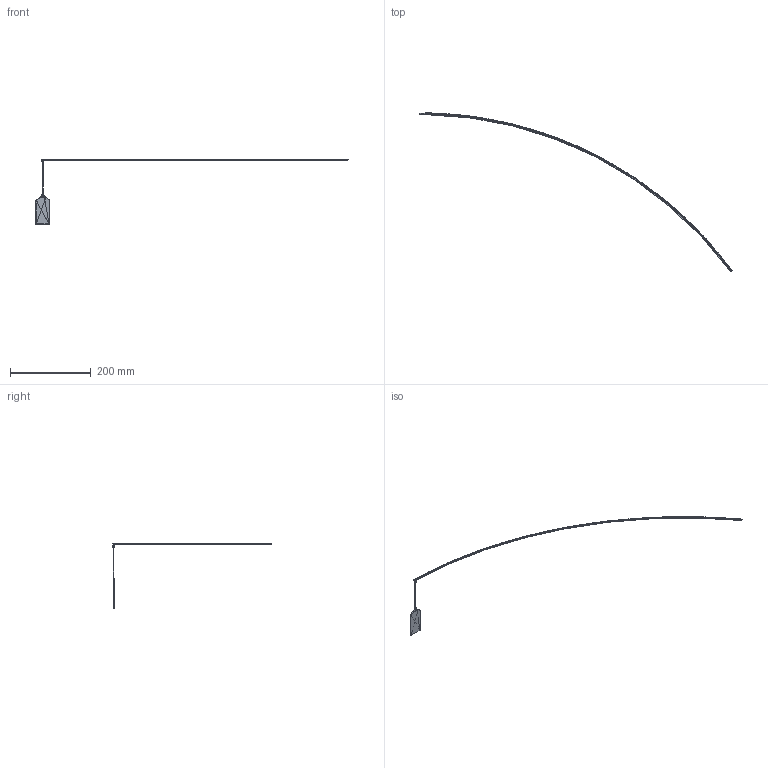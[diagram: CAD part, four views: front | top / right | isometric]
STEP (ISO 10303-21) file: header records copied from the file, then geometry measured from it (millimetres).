
FILE_DESCRIPTION(/* description */ (''),/* implementation_level */ '2;1');
FILE_NAME(/* name */ 'Your hanger_final modeling',/* time_stamp */ '2015-09-02T04:38:23+09:00',/* author */ (''),/* organization */ (''),/* preprocessor_version */ 'ST-DEVELOPER v10',/* originating_system */ '',/* authorisation */ '');
FILE_SCHEMA (('CONFIG_CONTROL_DESIGN'));
Products named in the file (1): 1
Bounding box: 773.79 x 393.39 x 160.54 mm (x, y, z)
Volume: 10757.6 mm3; surface area: 24754.8 mm2
Topology: 21 solids, 22 shells, 2315 faces, 6429 edges, 3941 vertices
Faces by surface type: bspline 2315
Entity records: 181073 total; most frequent: CARTESIAN_POINT 142459, ORIENTED_EDGE 12466, EDGE_CURVE 6234, B_SPLINE_CURVE_WITH_KNOTS 6078, VERTEX_POINT 3906, EDGE_LOOP 2602, ADVANCED_FACE 2315, FACE_OUTER_BOUND 2315
